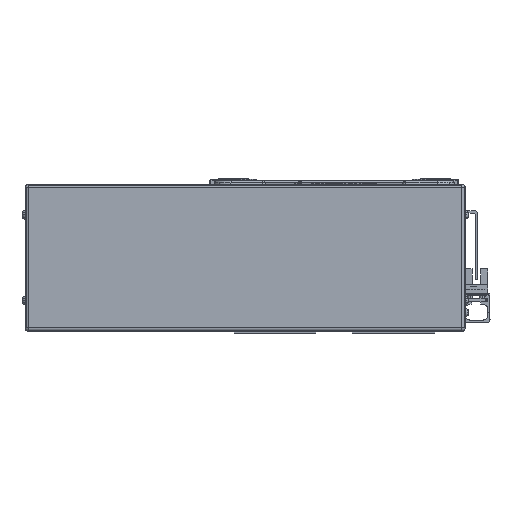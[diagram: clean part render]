
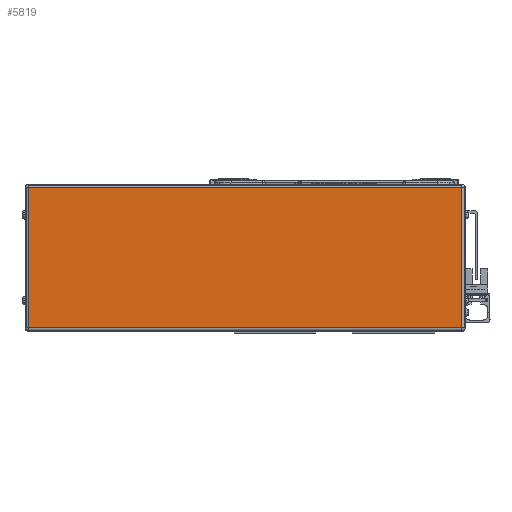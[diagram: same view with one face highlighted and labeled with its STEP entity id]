
A CAD part, left-side view. The second image highlights one B-rep face of the part: STEP entity #5819.
In plain terms, the highlighted planar face has unit normal (-1, 0, 0).
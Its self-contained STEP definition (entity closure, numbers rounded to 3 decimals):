
#5819=ADVANCED_FACE('',(#12972),#12973,.F.);
#12972=FACE_OUTER_BOUND('',#22296,.T.);
#12973=PLANE('',#22297);
#22296=EDGE_LOOP('',(#39188,#39189,#39190,#39191));
#22297=AXIS2_PLACEMENT_3D('',#39192,#39193,#39194);
#39188=ORIENTED_EDGE('',*,*,#58975,.T.);
#39189=ORIENTED_EDGE('',*,*,#53841,.T.);
#39190=ORIENTED_EDGE('',*,*,#58976,.T.);
#39191=ORIENTED_EDGE('',*,*,#58977,.T.);
#39192=CARTESIAN_POINT('',(-45.,180.5,0.));
#39193=DIRECTION('',(1.0,0.,0.));
#39194=DIRECTION('',(0.,0.,1.0));
#53841=EDGE_CURVE('',#64269,#64029,#64270,.T.);
#58975=EDGE_CURVE('',#72434,#64269,#72435,.T.);
#58976=EDGE_CURVE('',#64029,#72436,#72437,.T.);
#58977=EDGE_CURVE('',#72436,#72434,#72438,.T.);
#64029=VERTEX_POINT('',#78762);
#64269=VERTEX_POINT('',#79055);
#64270=LINE('',#79056,#79057);
#72434=VERTEX_POINT('',#91238);
#72435=LINE('',#91239,#91240);
#72436=VERTEX_POINT('',#91241);
#72437=LINE('',#91242,#91243);
#72438=LINE('',#91244,#91245);
#78762=CARTESIAN_POINT('',(-45.,-74.5,-41.));
#79055=CARTESIAN_POINT('',(-45.,178.5,-41.));
#79056=CARTESIAN_POINT('',(-45.,180.5,-41.));
#79057=VECTOR('',#98716,10.0);
#91238=CARTESIAN_POINT('',(-45.,178.5,41.));
#91239=CARTESIAN_POINT('',(-45.,178.5,0.));
#91240=VECTOR('',#105643,10.0);
#91241=CARTESIAN_POINT('',(-45.,-74.5,41.));
#91242=CARTESIAN_POINT('',(-45.,-74.5,0.));
#91243=VECTOR('',#105644,10.0);
#91244=CARTESIAN_POINT('',(-45.,180.5,41.));
#91245=VECTOR('',#105645,10.0);
#98716=DIRECTION('',(0.,-1.0,0.));
#105643=DIRECTION('',(0.,0.,-1.0));
#105644=DIRECTION('',(0.,0.,1.0));
#105645=DIRECTION('',(0.,1.0,0.));
